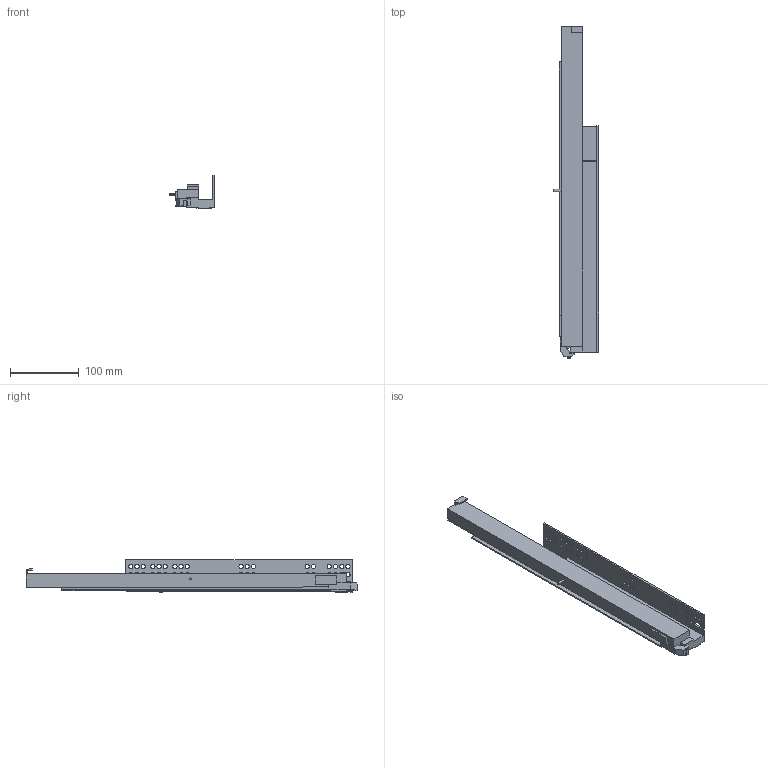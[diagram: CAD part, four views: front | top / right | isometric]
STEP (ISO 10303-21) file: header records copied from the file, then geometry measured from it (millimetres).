
FILE_DESCRIPTION (( 'STEP AP203' ), '1' );
FILE_NAME ('IMOS_Dynapro_Tipmatic_D51_NL_0_RE.STEP', '2013-03-22T12:05:09', ( 'Grass GmbH' ), ( 'Grass GmbH' ), 'SwSTEP 2.0', 'SolidWorks 2012', '' );
FILE_SCHEMA (( 'CONFIG_CONTROL_DESIGN' ));
Length unit declared in the file: millimetre
Products named in the file (1): IMOS_Dynapro_Tipmatic_D51_NL_0_RE
Bounding box: 65.92 x 481.55 x 48.48 mm (x, y, z)
Volume: 451071.7 mm3; surface area: 106583.1 mm2
Topology: 1 solids, 1 shells, 174 faces, 501 edges, 334 vertices
Faces by surface type: plane 97, cylinder 77
Entity records: 5956 total; most frequent: CARTESIAN_POINT 1010, DIRECTION 1005, ORIENTED_EDGE 1002, EDGE_CURVE 501, LINE 347, VECTOR 347, VERTEX_POINT 334, AXIS2_PLACEMENT_3D 329
